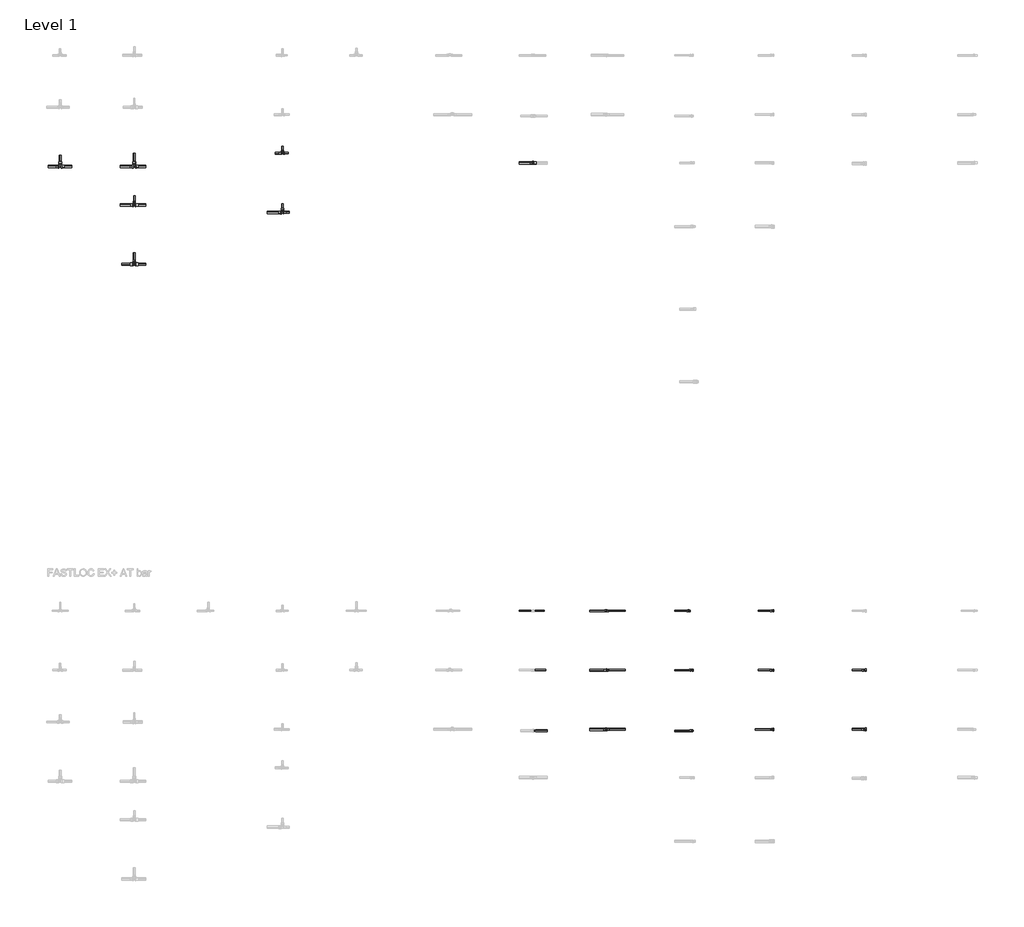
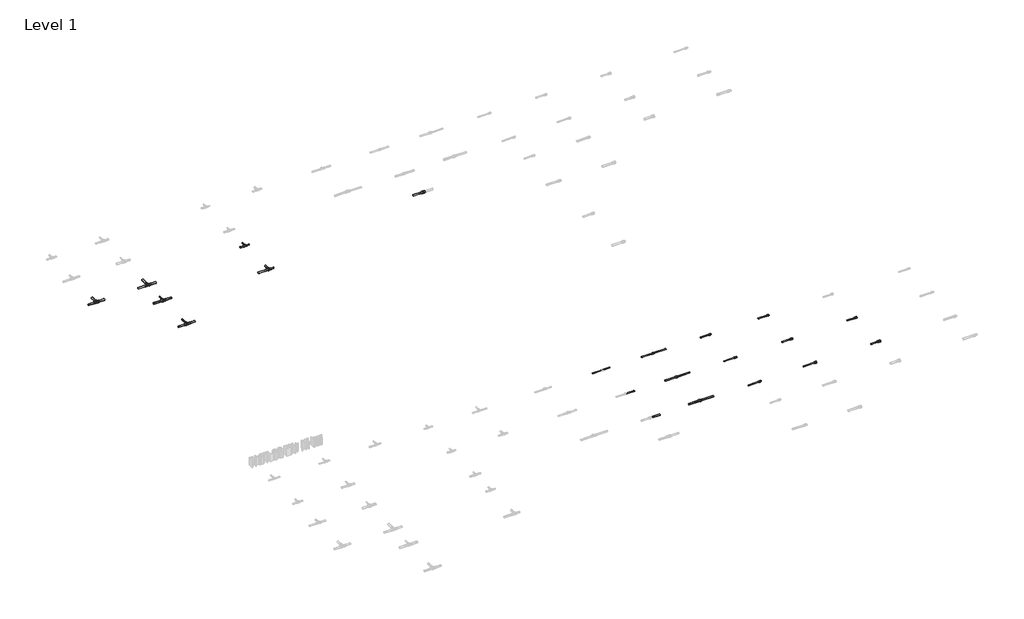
# One storey, part 3 of 16: 37 pipe segments, 18 pipe fittings.
"""IFC4 building model written with IfcOpenShell, lengths in millimetres."""

from ifc_helpers import new_model, si_unit, point, frame, frame_2d, origin, place, context, project, spatial, circle_curve, trimmed, segment, composite_curve, outline, extrude, transform, mapped, element, save
from components import pipe_fitting_1a227808, pipe_fitting_29307240, pipe_fitting_3f045704, pipe_fitting_bc9683d6, pipe_fitting_048a34f4, pipe_fitting_29655fe2, pipe_fitting_d5e3d02e, pipe_fitting_bff7a8e0, pipe_fitting_db3e6b17, pipe_fitting_a2d92617, pipe_fitting_b445dcfe, pipe_fitting_d2a23061, pipe_fitting_8464d15c, pipe_fitting_9284d0bf, pipe_fitting_5ce0ec79, pipe_fitting_622d26cc, pipe_fitting_bacc4522

model = new_model("IFC4")

# Units and contexts
model_context = context("Model", 3, world=origin())
ifc_project = project(units=[si_unit("LENGTHUNIT", "METRE", prefix="MILLI")], contexts=[model_context])

# Site, building, storey
site = spatial("IfcSite", under=ifc_project)
building = spatial("IfcBuilding", under=site)
storey = spatial("IfcBuildingStorey", under=building, Name="Level 1", Elevation=0.0)

# Pipe fittings
placement = place(None, origin())
pipe_fitting_shape = pipe_fitting_1a227808(model_context)
element("IfcPipeFitting", 1, ObjectType="FASTLOC_Coupling reduced EX+ : FSL C EX+ AT", at=placement, inside=storey, context=model_context, shape_type="MappedRepresentation", body=[
    mapped(pipe_fitting_shape, transform((8942.2258143, -7887.6479967, 0.0), x_axis=(1.0, 0.0, 0.0), y_axis=(0.0, 1.0, 0.0), z_axis=(0.0, 0.0, 1.0))),
])
pipe_fitting_2_shape = pipe_fitting_29307240(model_context)
element("IfcPipeFitting", 2, ObjectType="FASTLOC_Adapter_EX+, with internal thread : FSL A internal AT", at=placement, inside=storey, context=model_context, shape_type="MappedRepresentation", body=[
    mapped(pipe_fitting_2_shape, transform((11179.5143796, -6287.6479967, 0.0), x_axis=(1.0, 0.0, 0.0), y_axis=(0.0, 1.0, 0.0), z_axis=(0.0, 0.0, 1.0))),
])
pipe_fitting_3_shape = pipe_fitting_3f045704(model_context)
element("IfcPipeFitting", 3, ObjectType="FASTLOC_Adapter_RX+, with external thread : FSL A C external EX+ AT", at=placement, inside=storey, context=model_context, shape_type="MappedRepresentation", body=[
    mapped(pipe_fitting_3_shape, transform((10045.0524741, -6287.6479967, 0.0), x_axis=(1.0, 0.0, 0.0), y_axis=(0.0, 1.0, 0.0), z_axis=(0.0, 0.0, 1.0))),
])
pipe_fitting_4_shape = pipe_fitting_bc9683d6(model_context)
element("IfcPipeFitting", 4, ObjectType="FASTLOC_T-piece_EX+ : FSL T-Piece EX+ DE", at=placement, inside=storey, context=model_context, shape_type="MappedRepresentation", body=[
    mapped(pipe_fitting_4_shape, transform((1562.9146925, -287.6479967, 0.0), x_axis=(1.0, 0.0, 0.0), y_axis=(0.0, 1.0, 0.0), z_axis=(0.0, 0.0, 1.0))),
])
element("IfcPipeFitting", 5, ObjectType="FASTLOC_T-piece_EX+ : FSL T-Piece EX+ DE", at=placement, inside=storey, context=model_context, shape_type="MappedRepresentation", body=[
    mapped(pipe_fitting_4_shape, transform((2562.9146925, -287.6479967, 0.0), x_axis=(1.0, 0.0, 0.0), y_axis=(0.0, 1.0, 0.0), z_axis=(0.0, 0.0, 1.0))),
])
pipe_fitting_5_shape = pipe_fitting_048a34f4(model_context)
element("IfcPipeFitting", 6, ObjectType="FASTLOC_T-piece_EX+ : FSL T-Piece EX+ DE", at=placement, inside=storey, context=model_context, shape_type="MappedRepresentation", body=[
    mapped(pipe_fitting_5_shape, transform((2562.9146925, -807.6479967, 0.0), x_axis=(1.0, 0.0, 0.0), y_axis=(0.0, 1.0, 0.0), z_axis=(0.0, 0.0, 1.0))),
])
pipe_fitting_6_shape = pipe_fitting_29655fe2(model_context)
element("IfcPipeFitting", 7, ObjectType="FASTLOC_T-piece_EX+ : FSL T-Piece EX+ DE", at=placement, inside=storey, context=model_context, shape_type="MappedRepresentation", body=[
    mapped(pipe_fitting_6_shape, transform((2562.9146925, -1607.6479967, 0.0), x_axis=(1.0, 0.0, 0.0), y_axis=(0.0, 1.0, 0.0), z_axis=(0.0, 0.0, 1.0))),
])
pipe_fitting_7_shape = pipe_fitting_d5e3d02e(model_context)
element("IfcPipeFitting", 8, ObjectType="FASTLOC_T-piece_EX+ : FSL T-Piece EX+ DE", at=placement, inside=storey, context=model_context, shape_type="MappedRepresentation", body=[
    mapped(pipe_fitting_7_shape, transform((4562.9146925, -907.6479967, 0.0), x_axis=(1.0, 0.0, 0.0), y_axis=(0.0, 1.0, 0.0), z_axis=(0.0, 0.0, 1.0))),
])
pipe_fitting_8_shape = pipe_fitting_bff7a8e0(model_context)
element("IfcPipeFitting", 9, ObjectType="FASTLOC_T-piece_EX+ : FSL T-Piece EX+ DE", at=placement, inside=storey, context=model_context, shape_type="MappedRepresentation", body=[
    mapped(pipe_fitting_8_shape, transform((4562.9146925, -107.6479967, 0.0), x_axis=(1.0, 0.0, 0.0), y_axis=(0.0, 1.0, 0.0), z_axis=(0.0, 0.0, 1.0))),
])
pipe_fitting_9_shape = pipe_fitting_db3e6b17(model_context)
element("IfcPipeFitting", 10, ObjectType="FASTLOC_Adapter_EX+, with internal thread : FSL A internal AT", at=placement, inside=storey, context=model_context, shape_type="MappedRepresentation", body=[
    mapped(pipe_fitting_9_shape, transform((11179.5143796, -7087.6479967, 0.0), x_axis=(1.0, 0.0, 0.0), y_axis=(0.0, 1.0, 0.0), z_axis=(0.0, 0.0, 1.0))),
])
pipe_fitting_10_shape = pipe_fitting_a2d92617(model_context)
element("IfcPipeFitting", 11, ObjectType="FASTLOC_Adapter_EX+, with internal thread : FSL A internal AT", at=placement, inside=storey, context=model_context, shape_type="MappedRepresentation", body=[
    mapped(pipe_fitting_10_shape, transform((11179.5143796, -7887.6479967, 0.0), x_axis=(1.0, 0.0, 0.0), y_axis=(0.0, 1.0, 0.0), z_axis=(0.0, 0.0, 1.0))),
])
pipe_fitting_11_shape = pipe_fitting_b445dcfe(model_context)
element("IfcPipeFitting", 12, ObjectType="FASTLOC_Coupling reduced EX+ : FSL C EX+ AT", at=placement, inside=storey, context=model_context, shape_type="MappedRepresentation", body=[
    mapped(pipe_fitting_11_shape, transform((8942.2258143, -6287.6479967, 0.0), x_axis=(1.0, 0.0, 0.0), y_axis=(0.0, 1.0, 0.0), z_axis=(0.0, 0.0, 1.0))),
])
pipe_fitting_12_shape = pipe_fitting_d2a23061(model_context)
element("IfcPipeFitting", 13, ObjectType="FASTLOC_Coupling reduced EX+ : FSL C EX+ AT", at=placement, inside=storey, context=model_context, shape_type="MappedRepresentation", body=[
    mapped(pipe_fitting_12_shape, transform((8942.2258143, -7087.6479967, 0.0), x_axis=(1.0, 0.0, 0.0), y_axis=(0.0, 1.0, 0.0), z_axis=(0.0, 0.0, 1.0))),
])
pipe_fitting_13_shape = pipe_fitting_8464d15c(model_context)
element("IfcPipeFitting", 14, ObjectType="FASTLOC_Coupling equal EX+ : FSL C EX DE", at=placement, inside=storey, context=model_context, shape_type="MappedRepresentation", body=[
    mapped(pipe_fitting_13_shape, transform((7947.6401575, -239.0537829, 0.0), x_axis=(1.0, 0.0, 0.0), y_axis=(0.0, 1.0, 0.0), z_axis=(0.0, 0.0, 1.0))),
])
pipe_fitting_14_shape = pipe_fitting_9284d0bf(model_context)
element("IfcPipeFitting", 15, ObjectType="FASTLOC_Adapter_RX+, with external thread : FSL A C external EX+ AT", at=placement, inside=storey, context=model_context, shape_type="MappedRepresentation", body=[
    mapped(pipe_fitting_14_shape, transform((10080.5062975, -7087.6479967, 0.0), x_axis=(1.0, 0.0, 0.0), y_axis=(0.0, 1.0, 0.0), z_axis=(0.0, 0.0, 1.0))),
])
pipe_fitting_15_shape = pipe_fitting_5ce0ec79(model_context)
element("IfcPipeFitting", 16, ObjectType="FASTLOC_Adapter_RX+, with external thread : FSL A C external EX+ AT", at=placement, inside=storey, context=model_context, shape_type="MappedRepresentation", body=[
    mapped(pipe_fitting_15_shape, transform((10090.6359613, -7906.354246, 0.0), x_axis=(1.0, 0.0, 0.0), y_axis=(0.0, 1.0, 0.0), z_axis=(0.0, 0.0, 1.0))),
])
pipe_fitting_16_shape = pipe_fitting_622d26cc(model_context)
element("IfcPipeFitting", 17, ObjectType="FASTLOC_Adapter with union nut EX+ : FSL A union nut EX+ AT", at=placement, inside=storey, context=model_context, shape_type="MappedRepresentation", body=[
    mapped(pipe_fitting_16_shape, transform((12418.3503777, -7087.6479967, 0.0), x_axis=(1.0, 0.0, 0.0), y_axis=(0.0, 1.0, 0.0), z_axis=(0.0, 0.0, 1.0))),
])
pipe_fitting_17_shape = pipe_fitting_bacc4522(model_context)
element("IfcPipeFitting", 18, ObjectType="FASTLOC_Adapter with union nut EX+ : FSL A union nut EX+ AT", at=placement, inside=storey, context=model_context, shape_type="MappedRepresentation", body=[
    mapped(pipe_fitting_17_shape, transform((12418.3503777, -7887.6479967, 0.0), x_axis=(1.0, 0.0, 0.0), y_axis=(0.0, 1.0, 0.0), z_axis=(0.0, 0.0, 1.0))),
])

# Pipe segments
element("IfcPipeSegment", 19, ObjectType="FASTLOC EX+ ML DE bar", at=placement, inside=storey, context=model_context, shape_type="SweptSolid", body=[
    extrude(outline(composite_curve([segment(trimmed(circle_curve(frame_2d((-239.0537829, 0.0)), 16.0), [point((-223.0537829, 0.0))], [point((-239.0537829, -16.0))], False, "CARTESIAN"), True, "CONTINUOUS"), segment(trimmed(circle_curve(frame_2d((-239.0537829, 0.0)), 16.0), [point((-239.0537829, -16.0))], [point((-255.0537829, 0.0))], False, "CARTESIAN"), True, "CONTINUOUS"), segment(trimmed(circle_curve(frame_2d((-239.0537829, 0.0)), 16.0), [point((-255.0537829, 0.0))], [point((-239.0537829, 16.0))], False, "CARTESIAN"), True, "CONTINUOUS"), segment(trimmed(circle_curve(frame_2d((-239.0537829, 0.0)), 16.0), [point((-239.0537829, 16.0))], [point((-223.0537829, 0.0))], False, "CARTESIAN"), True, "CONTINUOUS")], self_intersect=False)), frame((7757.6401575, 0.0, 0.0), z_axis=(1.0, 0.0, 0.0), x_axis=(0.0, 1.0, 0.0)), (0.0, 0.0, 1.0), 180.0),
])
element("IfcPipeSegment", 20, ObjectType="FASTLOC EX+ ML DE bar", at=placement, inside=storey, context=model_context, shape_type="SweptSolid", body=[
    extrude(outline(composite_curve([segment(trimmed(circle_curve(frame_2d((-107.6479967, 0.0)), 10.0), [point((-117.6479967, 0.0))], [point((-107.6479967, 10.0))], False, "CARTESIAN"), True, "CONTINUOUS"), segment(trimmed(circle_curve(frame_2d((-107.6479967, 0.0)), 10.0), [point((-107.6479967, 10.0))], [point((-97.6479967, 0.0))], False, "CARTESIAN"), True, "CONTINUOUS"), segment(trimmed(circle_curve(frame_2d((-107.6479967, 0.0)), 10.0), [point((-97.6479967, 0.0))], [point((-107.6479967, -10.0))], False, "CARTESIAN"), True, "CONTINUOUS"), segment(trimmed(circle_curve(frame_2d((-107.6479967, 0.0)), 10.0), [point((-107.6479967, -10.0))], [point((-117.6479967, 0.0))], False, "CARTESIAN"), True, "CONTINUOUS")], self_intersect=False)), frame((4580.3146925, 0.0, 0.0), z_axis=(1.0, 0.0, 0.0), x_axis=(0.0, 1.0, 0.0)), (0.0, 0.0, 1.0), 60.0),
])
element("IfcPipeSegment", 21, ObjectType="FASTLOC EX+ ML DE bar", at=placement, inside=storey, context=model_context, shape_type="SweptSolid", body=[
    extrude(outline(composite_curve([segment(trimmed(circle_curve(frame_2d((0.0, 4562.9146925)), 10.0), [point((0.0, 4572.9146925))], [point((10.0, 4562.9146925))], False, "CARTESIAN"), True, "CONTINUOUS"), segment(trimmed(circle_curve(frame_2d((0.0, 4562.9146925)), 10.0), [point((10.0, 4562.9146925))], [point((0.0, 4552.9146925))], False, "CARTESIAN"), True, "CONTINUOUS"), segment(trimmed(circle_curve(frame_2d((0.0, 4562.9146925)), 10.0), [point((0.0, 4552.9146925))], [point((-10.0, 4562.9146925))], False, "CARTESIAN"), True, "CONTINUOUS"), segment(trimmed(circle_curve(frame_2d((0.0, 4562.9146925)), 10.0), [point((-10.0, 4562.9146925))], [point((0.0, 4572.9146925))], False, "CARTESIAN"), True, "CONTINUOUS")], self_intersect=False)), frame((0.0, -78.4479967, 0.0), z_axis=(0.0, 1.0, 0.0), x_axis=(0.0, 0.0, 1.0)), (0.0, 0.0, 1.0), 65.0),
])
element("IfcPipeSegment", 22, ObjectType="FASTLOC EX+ ML DE bar", at=placement, inside=storey, context=model_context, shape_type="SweptSolid", body=[
    extrude(outline(composite_curve([segment(trimmed(circle_curve(frame_2d((-107.6479967, 0.0)), 12.5), [point((-95.1479967, 0.0))], [point((-107.6479967, -12.5))], False, "CARTESIAN"), True, "CONTINUOUS"), segment(trimmed(circle_curve(frame_2d((-107.6479967, 0.0)), 12.5), [point((-107.6479967, -12.5))], [point((-120.1479967, 0.0))], False, "CARTESIAN"), True, "CONTINUOUS"), segment(trimmed(circle_curve(frame_2d((-107.6479967, 0.0)), 12.5), [point((-120.1479967, 0.0))], [point((-107.6479967, 12.5))], False, "CARTESIAN"), True, "CONTINUOUS"), segment(trimmed(circle_curve(frame_2d((-107.6479967, 0.0)), 12.5), [point((-107.6479967, 12.5))], [point((-95.1479967, 0.0))], False, "CARTESIAN"), True, "CONTINUOUS")], self_intersect=False)), frame((4464.6146925, 0.0, 0.0), z_axis=(1.0, 0.0, 0.0), x_axis=(0.0, 1.0, 0.0)), (0.0, 0.0, 1.0), 80.0),
])
element("IfcPipeSegment", 23, ObjectType="FASTLOC EX+ ML DE bar", at=placement, inside=storey, context=model_context, shape_type="SweptSolid", body=[
    extrude(outline(composite_curve([segment(trimmed(circle_curve(frame_2d((-907.6479967, 0.0)), 12.5), [point((-920.1479967, 0.0))], [point((-907.6479967, 12.5))], False, "CARTESIAN"), True, "CONTINUOUS"), segment(trimmed(circle_curve(frame_2d((-907.6479967, 0.0)), 12.5), [point((-907.6479967, 12.5))], [point((-895.1479967, 0.0))], False, "CARTESIAN"), True, "CONTINUOUS"), segment(trimmed(circle_curve(frame_2d((-907.6479967, 0.0)), 12.5), [point((-895.1479967, 0.0))], [point((-907.6479967, -12.5))], False, "CARTESIAN"), True, "CONTINUOUS"), segment(trimmed(circle_curve(frame_2d((-907.6479967, 0.0)), 12.5), [point((-907.6479967, -12.5))], [point((-920.1479967, 0.0))], False, "CARTESIAN"), True, "CONTINUOUS")], self_intersect=False)), frame((4583.0146925, 0.0, 0.0), z_axis=(1.0, 0.0, 0.0), x_axis=(0.0, 1.0, 0.0)), (0.0, 0.0, 1.0), 70.4),
])
element("IfcPipeSegment", 24, ObjectType="FASTLOC EX+ ML DE bar", at=placement, inside=storey, context=model_context, shape_type="SweptSolid", body=[
    extrude(outline(composite_curve([segment(trimmed(circle_curve(frame_2d((0.0, 4562.9146925)), 12.5), [point((0.0, 4575.4146925))], [point((12.5, 4562.9146925))], False, "CARTESIAN"), True, "CONTINUOUS"), segment(trimmed(circle_curve(frame_2d((0.0, 4562.9146925)), 12.5), [point((12.5, 4562.9146925))], [point((0.0, 4550.4146925))], False, "CARTESIAN"), True, "CONTINUOUS"), segment(trimmed(circle_curve(frame_2d((0.0, 4562.9146925)), 12.5), [point((0.0, 4550.4146925))], [point((-12.5, 4562.9146925))], False, "CARTESIAN"), True, "CONTINUOUS"), segment(trimmed(circle_curve(frame_2d((0.0, 4562.9146925)), 12.5), [point((-12.5, 4562.9146925))], [point((0.0, 4575.4146925))], False, "CARTESIAN"), True, "CONTINUOUS")], self_intersect=False)), frame((0.0, -873.2479967, 0.0), z_axis=(0.0, 1.0, 0.0), x_axis=(0.0, 0.0, 1.0)), (0.0, 0.0, 1.0), 85.0),
])
element("IfcPipeSegment", 25, ObjectType="FASTLOC EX+ ML DE bar", at=placement, inside=storey, context=model_context, shape_type="SweptSolid", body=[
    extrude(outline(composite_curve([segment(trimmed(circle_curve(frame_2d((-907.6479967, 0.0)), 16.0), [point((-891.6479967, 0.0))], [point((-907.6479967, -16.0))], False, "CARTESIAN"), True, "CONTINUOUS"), segment(trimmed(circle_curve(frame_2d((-907.6479967, 0.0)), 16.0), [point((-907.6479967, -16.0))], [point((-923.6479967, 0.0))], False, "CARTESIAN"), True, "CONTINUOUS"), segment(trimmed(circle_curve(frame_2d((-907.6479967, 0.0)), 16.0), [point((-923.6479967, 0.0))], [point((-907.6479967, 16.0))], False, "CARTESIAN"), True, "CONTINUOUS"), segment(trimmed(circle_curve(frame_2d((-907.6479967, 0.0)), 16.0), [point((-907.6479967, 16.0))], [point((-891.6479967, 0.0))], False, "CARTESIAN"), True, "CONTINUOUS")], self_intersect=False)), frame((4355.8146925, 0.0, 0.0), z_axis=(1.0, 0.0, 0.0), x_axis=(0.0, 1.0, 0.0)), (0.0, 0.0, 1.0), 185.0),
])
element("IfcPipeSegment", 26, ObjectType="FASTLOC EX+ ML DE bar", at=placement, inside=storey, context=model_context, shape_type="SweptSolid", body=[
    extrude(outline(composite_curve([segment(trimmed(circle_curve(frame_2d((-287.6479967, 0.0)), 16.0), [point((-303.6479967, 0.0))], [point((-287.6479967, 16.0))], False, "CARTESIAN"), True, "CONTINUOUS"), segment(trimmed(circle_curve(frame_2d((-287.6479967, 0.0)), 16.0), [point((-287.6479967, 16.0))], [point((-271.6479967, 0.0))], False, "CARTESIAN"), True, "CONTINUOUS"), segment(trimmed(circle_curve(frame_2d((-287.6479967, 0.0)), 16.0), [point((-271.6479967, 0.0))], [point((-287.6479967, -16.0))], False, "CARTESIAN"), True, "CONTINUOUS"), segment(trimmed(circle_curve(frame_2d((-287.6479967, 0.0)), 16.0), [point((-287.6479967, -16.0))], [point((-303.6479967, 0.0))], False, "CARTESIAN"), True, "CONTINUOUS")], self_intersect=False)), frame((2587.7146925, 0.0, 0.0), z_axis=(1.0, 0.0, 0.0), x_axis=(0.0, 1.0, 0.0)), (0.0, 0.0, 1.0), 130.0),
])
element("IfcPipeSegment", 27, ObjectType="FASTLOC EX+ ML DE bar", at=placement, inside=storey, context=model_context, shape_type="SweptSolid", body=[
    extrude(outline(composite_curve([segment(trimmed(circle_curve(frame_2d((0.0, 2562.9146925)), 16.0), [point((0.0, 2578.9146925))], [point((16.0, 2562.9146925))], False, "CARTESIAN"), True, "CONTINUOUS"), segment(trimmed(circle_curve(frame_2d((0.0, 2562.9146925)), 16.0), [point((16.0, 2562.9146925))], [point((0.0, 2546.9146925))], False, "CARTESIAN"), True, "CONTINUOUS"), segment(trimmed(circle_curve(frame_2d((0.0, 2562.9146925)), 16.0), [point((0.0, 2546.9146925))], [point((-16.0, 2562.9146925))], False, "CARTESIAN"), True, "CONTINUOUS"), segment(trimmed(circle_curve(frame_2d((0.0, 2562.9146925)), 16.0), [point((-16.0, 2562.9146925))], [point((0.0, 2578.9146925))], False, "CARTESIAN"), True, "CONTINUOUS")], self_intersect=False)), frame((0.0, -251.5479967, 0.0), z_axis=(0.0, 1.0, 0.0), x_axis=(0.0, 0.0, 1.0)), (0.0, 0.0, 1.0), 145.0),
])
element("IfcPipeSegment", 28, ObjectType="FASTLOC EX+ ML DE bar", at=placement, inside=storey, context=model_context, shape_type="SweptSolid", body=[
    extrude(outline(composite_curve([segment(trimmed(circle_curve(frame_2d((-287.6479967, 0.0)), 16.0), [point((-271.6479967, 0.0))], [point((-287.6479967, -16.0))], False, "CARTESIAN"), True, "CONTINUOUS"), segment(trimmed(circle_curve(frame_2d((-287.6479967, 0.0)), 16.0), [point((-287.6479967, -16.0))], [point((-303.6479967, 0.0))], False, "CARTESIAN"), True, "CONTINUOUS"), segment(trimmed(circle_curve(frame_2d((-287.6479967, 0.0)), 16.0), [point((-303.6479967, 0.0))], [point((-287.6479967, 16.0))], False, "CARTESIAN"), True, "CONTINUOUS"), segment(trimmed(circle_curve(frame_2d((-287.6479967, 0.0)), 16.0), [point((-287.6479967, 16.0))], [point((-271.6479967, 0.0))], False, "CARTESIAN"), True, "CONTINUOUS")], self_intersect=False)), frame((2373.1146925, 0.0, 0.0), z_axis=(1.0, 0.0, 0.0), x_axis=(0.0, 1.0, 0.0)), (0.0, 0.0, 1.0), 165.0),
])
element("IfcPipeSegment", 29, ObjectType="FASTLOC EX+ ML DE bar", at=placement, inside=storey, context=model_context, shape_type="SweptSolid", body=[
    extrude(outline(composite_curve([segment(trimmed(circle_curve(frame_2d((-807.6479967, 0.0)), 16.0), [point((-823.6479967, 0.0))], [point((-807.6479967, 16.0))], False, "CARTESIAN"), True, "CONTINUOUS"), segment(trimmed(circle_curve(frame_2d((-807.6479967, 0.0)), 16.0), [point((-807.6479967, 16.0))], [point((-791.6479967, 0.0))], False, "CARTESIAN"), True, "CONTINUOUS"), segment(trimmed(circle_curve(frame_2d((-807.6479967, 0.0)), 16.0), [point((-791.6479967, 0.0))], [point((-807.6479967, -16.0))], False, "CARTESIAN"), True, "CONTINUOUS"), segment(trimmed(circle_curve(frame_2d((-807.6479967, 0.0)), 16.0), [point((-807.6479967, -16.0))], [point((-823.6479967, 0.0))], False, "CARTESIAN"), True, "CONTINUOUS")], self_intersect=False)), frame((2583.1146925, 0.0, 0.0), z_axis=(1.0, 0.0, 0.0), x_axis=(0.0, 1.0, 0.0)), (0.0, 0.0, 1.0), 134.6),
])
element("IfcPipeSegment", 30, ObjectType="FASTLOC EX+ ML DE bar", at=placement, inside=storey, context=model_context, shape_type="SweptSolid", body=[
    extrude(outline(composite_curve([segment(trimmed(circle_curve(frame_2d((-807.6479967, 0.0)), 16.0), [point((-791.6479967, 0.0))], [point((-807.6479967, -16.0))], False, "CARTESIAN"), True, "CONTINUOUS"), segment(trimmed(circle_curve(frame_2d((-807.6479967, 0.0)), 16.0), [point((-807.6479967, -16.0))], [point((-823.6479967, 0.0))], False, "CARTESIAN"), True, "CONTINUOUS"), segment(trimmed(circle_curve(frame_2d((-807.6479967, 0.0)), 16.0), [point((-823.6479967, 0.0))], [point((-807.6479967, 16.0))], False, "CARTESIAN"), True, "CONTINUOUS"), segment(trimmed(circle_curve(frame_2d((-807.6479967, 0.0)), 16.0), [point((-807.6479967, 16.0))], [point((-791.6479967, 0.0))], False, "CARTESIAN"), True, "CONTINUOUS")], self_intersect=False)), frame((2373.1146925, 0.0, 0.0), z_axis=(1.0, 0.0, 0.0), x_axis=(0.0, 1.0, 0.0)), (0.0, 0.0, 1.0), 169.6),
])
element("IfcPipeSegment", 31, ObjectType="FASTLOC EX+ ML DE bar", at=placement, inside=storey, context=model_context, shape_type="SweptSolid", body=[
    extrude(outline(composite_curve([segment(trimmed(circle_curve(frame_2d((0.0, 2562.9146925)), 10.0), [point((0.0, 2572.9146925))], [point((10.0, 2562.9146925))], False, "CARTESIAN"), True, "CONTINUOUS"), segment(trimmed(circle_curve(frame_2d((0.0, 2562.9146925)), 10.0), [point((10.0, 2562.9146925))], [point((0.0, 2552.9146925))], False, "CARTESIAN"), True, "CONTINUOUS"), segment(trimmed(circle_curve(frame_2d((0.0, 2562.9146925)), 10.0), [point((0.0, 2552.9146925))], [point((-10.0, 2562.9146925))], False, "CARTESIAN"), True, "CONTINUOUS"), segment(trimmed(circle_curve(frame_2d((0.0, 2562.9146925)), 10.0), [point((-10.0, 2562.9146925))], [point((0.0, 2572.9146925))], False, "CARTESIAN"), True, "CONTINUOUS")], self_intersect=False)), frame((0.0, -773.6479967, 0.0), z_axis=(0.0, 1.0, 0.0), x_axis=(0.0, 0.0, 1.0)), (0.0, 0.0, 1.0), 90.0),
])
element("IfcPipeSegment", 32, ObjectType="FASTLOC EX+ ML DE bar", at=placement, inside=storey, context=model_context, shape_type="SweptSolid", body=[
    extrude(outline(composite_curve([segment(trimmed(circle_curve(frame_2d((-1607.6479967, 0.0)), 16.0), [point((-1623.6479967, 0.0))], [point((-1607.6479967, 16.0))], False, "CARTESIAN"), True, "CONTINUOUS"), segment(trimmed(circle_curve(frame_2d((-1607.6479967, 0.0)), 16.0), [point((-1607.6479967, 16.0))], [point((-1591.6479967, 0.0))], False, "CARTESIAN"), True, "CONTINUOUS"), segment(trimmed(circle_curve(frame_2d((-1607.6479967, 0.0)), 16.0), [point((-1591.6479967, 0.0))], [point((-1607.6479967, -16.0))], False, "CARTESIAN"), True, "CONTINUOUS"), segment(trimmed(circle_curve(frame_2d((-1607.6479967, 0.0)), 16.0), [point((-1607.6479967, -16.0))], [point((-1623.6479967, 0.0))], False, "CARTESIAN"), True, "CONTINUOUS")], self_intersect=False)), frame((2584.9146925, 0.0, 0.0), z_axis=(1.0, 0.0, 0.0), x_axis=(0.0, 1.0, 0.0)), (0.0, 0.0, 1.0), 132.8),
])
element("IfcPipeSegment", 33, ObjectType="FASTLOC EX+ ML DE bar", at=placement, inside=storey, context=model_context, shape_type="SweptSolid", body=[
    extrude(outline(composite_curve([segment(trimmed(circle_curve(frame_2d((-1607.6479967, 0.0)), 16.0), [point((-1591.6479967, 0.0))], [point((-1607.6479967, -16.0))], False, "CARTESIAN"), True, "CONTINUOUS"), segment(trimmed(circle_curve(frame_2d((-1607.6479967, 0.0)), 16.0), [point((-1607.6479967, -16.0))], [point((-1623.6479967, 0.0))], False, "CARTESIAN"), True, "CONTINUOUS"), segment(trimmed(circle_curve(frame_2d((-1607.6479967, 0.0)), 16.0), [point((-1623.6479967, 0.0))], [point((-1607.6479967, 16.0))], False, "CARTESIAN"), True, "CONTINUOUS"), segment(trimmed(circle_curve(frame_2d((-1607.6479967, 0.0)), 16.0), [point((-1607.6479967, 16.0))], [point((-1591.6479967, 0.0))], False, "CARTESIAN"), True, "CONTINUOUS")], self_intersect=False)), frame((2395.9146925, 0.0, 0.0), z_axis=(1.0, 0.0, 0.0), x_axis=(0.0, 1.0, 0.0)), (0.0, 0.0, 1.0), 145.0),
])
element("IfcPipeSegment", 34, ObjectType="FASTLOC EX+ ML DE bar", at=placement, inside=storey, context=model_context, shape_type="SweptSolid", body=[
    extrude(outline(composite_curve([segment(trimmed(circle_curve(frame_2d((0.0, 2562.9146925)), 12.5), [point((0.0, 2575.4146925))], [point((12.5, 2562.9146925))], False, "CARTESIAN"), True, "CONTINUOUS"), segment(trimmed(circle_curve(frame_2d((0.0, 2562.9146925)), 12.5), [point((12.5, 2562.9146925))], [point((0.0, 2550.4146925))], False, "CARTESIAN"), True, "CONTINUOUS"), segment(trimmed(circle_curve(frame_2d((0.0, 2562.9146925)), 12.5), [point((0.0, 2550.4146925))], [point((-12.5, 2562.9146925))], False, "CARTESIAN"), True, "CONTINUOUS"), segment(trimmed(circle_curve(frame_2d((0.0, 2562.9146925)), 12.5), [point((-12.5, 2562.9146925))], [point((0.0, 2575.4146925))], False, "CARTESIAN"), True, "CONTINUOUS")], self_intersect=False)), frame((0.0, -1573.2479967, 0.0), z_axis=(0.0, 1.0, 0.0), x_axis=(0.0, 0.0, 1.0)), (0.0, 0.0, 1.0), 120.0),
])
element("IfcPipeSegment", 35, ObjectType="FASTLOC EX+ ML DE bar", at=placement, inside=storey, context=model_context, shape_type="SweptSolid", body=[
    extrude(outline(composite_curve([segment(trimmed(circle_curve(frame_2d((-287.6479967, 0.0)), 16.0), [point((-303.6479967, 0.0))], [point((-287.6479967, 16.0))], False, "CARTESIAN"), True, "CONTINUOUS"), segment(trimmed(circle_curve(frame_2d((-287.6479967, 0.0)), 16.0), [point((-287.6479967, 16.0))], [point((-271.6479967, 0.0))], False, "CARTESIAN"), True, "CONTINUOUS"), segment(trimmed(circle_curve(frame_2d((-287.6479967, 0.0)), 16.0), [point((-271.6479967, 0.0))], [point((-287.6479967, -16.0))], False, "CARTESIAN"), True, "CONTINUOUS"), segment(trimmed(circle_curve(frame_2d((-287.6479967, 0.0)), 16.0), [point((-287.6479967, -16.0))], [point((-303.6479967, 0.0))], False, "CARTESIAN"), True, "CONTINUOUS")], self_intersect=False)), frame((1587.7146925, 0.0, 0.0), z_axis=(1.0, 0.0, 0.0), x_axis=(0.0, 1.0, 0.0)), (0.0, 0.0, 1.0), 130.0),
])
element("IfcPipeSegment", 36, ObjectType="FASTLOC EX+ ML DE bar", at=placement, inside=storey, context=model_context, shape_type="SweptSolid", body=[
    extrude(outline(composite_curve([segment(trimmed(circle_curve(frame_2d((-287.6479967, 0.0)), 16.0), [point((-271.6479967, 0.0))], [point((-287.6479967, -16.0))], False, "CARTESIAN"), True, "CONTINUOUS"), segment(trimmed(circle_curve(frame_2d((-287.6479967, 0.0)), 16.0), [point((-287.6479967, -16.0))], [point((-303.6479967, 0.0))], False, "CARTESIAN"), True, "CONTINUOUS"), segment(trimmed(circle_curve(frame_2d((-287.6479967, 0.0)), 16.0), [point((-303.6479967, 0.0))], [point((-287.6479967, 16.0))], False, "CARTESIAN"), True, "CONTINUOUS"), segment(trimmed(circle_curve(frame_2d((-287.6479967, 0.0)), 16.0), [point((-287.6479967, 16.0))], [point((-271.6479967, 0.0))], False, "CARTESIAN"), True, "CONTINUOUS")], self_intersect=False)), frame((1403.1146925, 0.0, 0.0), z_axis=(1.0, 0.0, 0.0), x_axis=(0.0, 1.0, 0.0)), (0.0, 0.0, 1.0), 135.0),
])
element("IfcPipeSegment", 37, ObjectType="FASTLOC EX+ ML DE bar", at=placement, inside=storey, context=model_context, shape_type="SweptSolid", body=[
    extrude(outline(composite_curve([segment(trimmed(circle_curve(frame_2d((0.0, 1562.9146925)), 16.0), [point((0.0, 1578.9146925))], [point((16.0, 1562.9146925))], False, "CARTESIAN"), True, "CONTINUOUS"), segment(trimmed(circle_curve(frame_2d((0.0, 1562.9146925)), 16.0), [point((16.0, 1562.9146925))], [point((0.0, 1546.9146925))], False, "CARTESIAN"), True, "CONTINUOUS"), segment(trimmed(circle_curve(frame_2d((0.0, 1562.9146925)), 16.0), [point((0.0, 1546.9146925))], [point((-16.0, 1562.9146925))], False, "CARTESIAN"), True, "CONTINUOUS"), segment(trimmed(circle_curve(frame_2d((0.0, 1562.9146925)), 16.0), [point((-16.0, 1562.9146925))], [point((0.0, 1578.9146925))], False, "CARTESIAN"), True, "CONTINUOUS")], self_intersect=False)), frame((0.0, -251.5479967, 0.0), z_axis=(0.0, 1.0, 0.0), x_axis=(0.0, 0.0, 1.0)), (0.0, 0.0, 1.0), 115.0),
])
element("IfcPipeSegment", 38, ObjectType="FASTLOC EX+ ML AT bar", at=placement, inside=storey, context=model_context, shape_type="SweptSolid", body=[
    extrude(outline(composite_curve([segment(trimmed(circle_curve(frame_2d((-7087.6479967, 0.0)), 10.0), [point((-7077.6479967, 0.0))], [point((-7087.6479967, -10.0))], False, "CARTESIAN"), True, "CONTINUOUS"), segment(trimmed(circle_curve(frame_2d((-7087.6479967, 0.0)), 10.0), [point((-7087.6479967, -10.0))], [point((-7097.6479967, 0.0))], False, "CARTESIAN"), True, "CONTINUOUS"), segment(trimmed(circle_curve(frame_2d((-7087.6479967, 0.0)), 10.0), [point((-7097.6479967, 0.0))], [point((-7087.6479967, 10.0))], False, "CARTESIAN"), True, "CONTINUOUS"), segment(trimmed(circle_curve(frame_2d((-7087.6479967, 0.0)), 10.0), [point((-7087.6479967, 10.0))], [point((-7077.6479967, 0.0))], False, "CARTESIAN"), True, "CONTINUOUS")], self_intersect=False)), frame((12259.3503777, 0.0, 0.0), z_axis=(1.0, 0.0, 0.0), x_axis=(0.0, 1.0, 0.0)), (0.0, 0.0, 1.0), 150.0),
])
element("IfcPipeSegment", 39, ObjectType="FASTLOC EX+ ML AT bar", at=placement, inside=storey, context=model_context, shape_type="SweptSolid", body=[
    extrude(outline(composite_curve([segment(trimmed(circle_curve(frame_2d((-7887.6479967, 0.0)), 12.5), [point((-7875.1479967, 0.0))], [point((-7887.6479967, -12.5))], False, "CARTESIAN"), True, "CONTINUOUS"), segment(trimmed(circle_curve(frame_2d((-7887.6479967, 0.0)), 12.5), [point((-7887.6479967, -12.5))], [point((-7900.1479967, 0.0))], False, "CARTESIAN"), True, "CONTINUOUS"), segment(trimmed(circle_curve(frame_2d((-7887.6479967, 0.0)), 12.5), [point((-7900.1479967, 0.0))], [point((-7887.6479967, 12.5))], False, "CARTESIAN"), True, "CONTINUOUS"), segment(trimmed(circle_curve(frame_2d((-7887.6479967, 0.0)), 12.5), [point((-7887.6479967, 12.5))], [point((-7875.1479967, 0.0))], False, "CARTESIAN"), True, "CONTINUOUS")], self_intersect=False)), frame((12259.3503777, 0.0, 0.0), z_axis=(1.0, 0.0, 0.0), x_axis=(0.0, 1.0, 0.0)), (0.0, 0.0, 1.0), 148.7),
])
element("IfcPipeSegment", 40, ObjectType="FASTLOC EX+ ML AT bar", at=placement, inside=storey, context=model_context, shape_type="SweptSolid", body=[
    extrude(outline(composite_curve([segment(trimmed(circle_curve(frame_2d((-6287.6479967, 0.0)), 8.0), [point((-6279.6479967, 0.0))], [point((-6287.6479967, -8.0))], False, "CARTESIAN"), True, "CONTINUOUS"), segment(trimmed(circle_curve(frame_2d((-6287.6479967, 0.0)), 8.0), [point((-6287.6479967, -8.0))], [point((-6295.6479967, 0.0))], False, "CARTESIAN"), True, "CONTINUOUS"), segment(trimmed(circle_curve(frame_2d((-6287.6479967, 0.0)), 8.0), [point((-6295.6479967, 0.0))], [point((-6287.6479967, 8.0))], False, "CARTESIAN"), True, "CONTINUOUS"), segment(trimmed(circle_curve(frame_2d((-6287.6479967, 0.0)), 8.0), [point((-6287.6479967, 8.0))], [point((-6279.6479967, 0.0))], False, "CARTESIAN"), True, "CONTINUOUS")], self_intersect=False)), frame((10987.1143796, 0.0, 0.0), z_axis=(1.0, 0.0, 0.0), x_axis=(0.0, 1.0, 0.0)), (0.0, 0.0, 1.0), 180.0),
])
element("IfcPipeSegment", 41, ObjectType="FASTLOC EX+ ML AT bar", at=placement, inside=storey, context=model_context, shape_type="SweptSolid", body=[
    extrude(outline(composite_curve([segment(trimmed(circle_curve(frame_2d((-7087.6479967, 0.0)), 10.0), [point((-7077.6479967, 0.0))], [point((-7087.6479967, -10.0))], False, "CARTESIAN"), True, "CONTINUOUS"), segment(trimmed(circle_curve(frame_2d((-7087.6479967, 0.0)), 10.0), [point((-7087.6479967, -10.0))], [point((-7097.6479967, 0.0))], False, "CARTESIAN"), True, "CONTINUOUS"), segment(trimmed(circle_curve(frame_2d((-7087.6479967, 0.0)), 10.0), [point((-7097.6479967, 0.0))], [point((-7087.6479967, 10.0))], False, "CARTESIAN"), True, "CONTINUOUS"), segment(trimmed(circle_curve(frame_2d((-7087.6479967, 0.0)), 10.0), [point((-7087.6479967, 10.0))], [point((-7077.6479967, 0.0))], False, "CARTESIAN"), True, "CONTINUOUS")], self_intersect=False)), frame((10987.1143796, 0.0, 0.0), z_axis=(1.0, 0.0, 0.0), x_axis=(0.0, 1.0, 0.0)), (0.0, 0.0, 1.0), 180.7),
])
element("IfcPipeSegment", 42, ObjectType="FASTLOC EX+ ML AT bar", at=placement, inside=storey, context=model_context, shape_type="SweptSolid", body=[
    extrude(outline(composite_curve([segment(trimmed(circle_curve(frame_2d((-7887.6479967, 0.0)), 10.0), [point((-7877.6479967, 0.0))], [point((-7887.6479967, -10.0))], False, "CARTESIAN"), True, "CONTINUOUS"), segment(trimmed(circle_curve(frame_2d((-7887.6479967, 0.0)), 10.0), [point((-7887.6479967, -10.0))], [point((-7897.6479967, 0.0))], False, "CARTESIAN"), True, "CONTINUOUS"), segment(trimmed(circle_curve(frame_2d((-7887.6479967, 0.0)), 10.0), [point((-7897.6479967, 0.0))], [point((-7887.6479967, 10.0))], False, "CARTESIAN"), True, "CONTINUOUS"), segment(trimmed(circle_curve(frame_2d((-7887.6479967, 0.0)), 10.0), [point((-7887.6479967, 10.0))], [point((-7877.6479967, 0.0))], False, "CARTESIAN"), True, "CONTINUOUS")], self_intersect=False)), frame((10946.2143796, 0.0, 0.0), z_axis=(1.0, 0.0, 0.0), x_axis=(0.0, 1.0, 0.0)), (0.0, 0.0, 1.0), 220.0),
])
element("IfcPipeSegment", 43, ObjectType="FASTLOC EX+ ML AT bar", at=placement, inside=storey, context=model_context, shape_type="SweptSolid", body=[
    extrude(outline(composite_curve([segment(trimmed(circle_curve(frame_2d((-7906.354246, 0.0)), 10.0), [point((-7896.354246, 0.0))], [point((-7906.354246, -10.0))], False, "CARTESIAN"), True, "CONTINUOUS"), segment(trimmed(circle_curve(frame_2d((-7906.354246, 0.0)), 10.0), [point((-7906.354246, -10.0))], [point((-7916.354246, 0.0))], False, "CARTESIAN"), True, "CONTINUOUS"), segment(trimmed(circle_curve(frame_2d((-7906.354246, 0.0)), 10.0), [point((-7916.354246, 0.0))], [point((-7906.354246, 10.0))], False, "CARTESIAN"), True, "CONTINUOUS"), segment(trimmed(circle_curve(frame_2d((-7906.354246, 0.0)), 10.0), [point((-7906.354246, 10.0))], [point((-7896.354246, 0.0))], False, "CARTESIAN"), True, "CONTINUOUS")], self_intersect=False)), frame((9861.9359613, 0.0, 0.0), z_axis=(1.0, 0.0, 0.0), x_axis=(0.0, 1.0, 0.0)), (0.0, 0.0, 1.0), 220.0),
])
element("IfcPipeSegment", 44, ObjectType="FASTLOC EX+ ML AT bar", at=placement, inside=storey, context=model_context, shape_type="SweptSolid", body=[
    extrude(outline(composite_curve([segment(trimmed(circle_curve(frame_2d((-7087.6479967, 0.0)), 8.0), [point((-7079.6479967, 0.0))], [point((-7087.6479967, -8.0))], False, "CARTESIAN"), True, "CONTINUOUS"), segment(trimmed(circle_curve(frame_2d((-7087.6479967, 0.0)), 8.0), [point((-7087.6479967, -8.0))], [point((-7095.6479967, 0.0))], False, "CARTESIAN"), True, "CONTINUOUS"), segment(trimmed(circle_curve(frame_2d((-7087.6479967, 0.0)), 8.0), [point((-7095.6479967, 0.0))], [point((-7087.6479967, 8.0))], False, "CARTESIAN"), True, "CONTINUOUS"), segment(trimmed(circle_curve(frame_2d((-7087.6479967, 0.0)), 8.0), [point((-7087.6479967, 8.0))], [point((-7079.6479967, 0.0))], False, "CARTESIAN"), True, "CONTINUOUS")], self_intersect=False)), frame((9861.9359613, 0.0, 0.0), z_axis=(1.0, 0.0, 0.0), x_axis=(0.0, 1.0, 0.0)), (0.0, 0.0, 1.0), 209.6703362),
])
element("IfcPipeSegment", 45, ObjectType="FASTLOC EX+ ML AT bar", at=placement, inside=storey, context=model_context, shape_type="SweptSolid", body=[
    extrude(outline(composite_curve([segment(trimmed(circle_curve(frame_2d((-6287.6479967, 0.0)), 8.0), [point((-6279.6479967, 0.0))], [point((-6287.6479967, -8.0))], False, "CARTESIAN"), True, "CONTINUOUS"), segment(trimmed(circle_curve(frame_2d((-6287.6479967, 0.0)), 8.0), [point((-6287.6479967, -8.0))], [point((-6295.6479967, 0.0))], False, "CARTESIAN"), True, "CONTINUOUS"), segment(trimmed(circle_curve(frame_2d((-6287.6479967, 0.0)), 8.0), [point((-6295.6479967, 0.0))], [point((-6287.6479967, 8.0))], False, "CARTESIAN"), True, "CONTINUOUS"), segment(trimmed(circle_curve(frame_2d((-6287.6479967, 0.0)), 8.0), [point((-6287.6479967, 8.0))], [point((-6279.6479967, 0.0))], False, "CARTESIAN"), True, "CONTINUOUS")], self_intersect=False)), frame((9861.9359613, 0.0, 0.0), z_axis=(1.0, 0.0, 0.0), x_axis=(0.0, 1.0, 0.0)), (0.0, 0.0, 1.0), 174.2165128),
])
element("IfcPipeSegment", 46, ObjectType="FASTLOC EX+ ML AT bar", at=placement, inside=storey, context=model_context, shape_type="SweptSolid", body=[
    extrude(outline(composite_curve([segment(trimmed(circle_curve(frame_2d((-6287.6479967, 0.0)), 8.0), [point((-6295.6479967, 0.0))], [point((-6287.6479967, 8.0))], False, "CARTESIAN"), True, "CONTINUOUS"), segment(trimmed(circle_curve(frame_2d((-6287.6479967, 0.0)), 8.0), [point((-6287.6479967, 8.0))], [point((-6279.6479967, 0.0))], False, "CARTESIAN"), True, "CONTINUOUS"), segment(trimmed(circle_curve(frame_2d((-6287.6479967, 0.0)), 8.0), [point((-6279.6479967, 0.0))], [point((-6287.6479967, -8.0))], False, "CARTESIAN"), True, "CONTINUOUS"), segment(trimmed(circle_curve(frame_2d((-6287.6479967, 0.0)), 8.0), [point((-6287.6479967, -8.0))], [point((-6295.6479967, 0.0))], False, "CARTESIAN"), True, "CONTINUOUS")], self_intersect=False)), frame((7954.8401575, 0.0, 0.0), z_axis=(1.0, 0.0, 0.0), x_axis=(0.0, 1.0, 0.0)), (0.0, 0.0, 1.0), 140.0),
])
element("IfcPipeSegment", 47, ObjectType="FASTLOC EX+ ML AT bar", at=placement, inside=storey, context=model_context, shape_type="SweptSolid", body=[
    extrude(outline(composite_curve([segment(trimmed(circle_curve(frame_2d((-6287.6479967, 0.0)), 8.0), [point((-6279.6479967, 0.0))], [point((-6287.6479967, -8.0))], False, "CARTESIAN"), True, "CONTINUOUS"), segment(trimmed(circle_curve(frame_2d((-6287.6479967, 0.0)), 8.0), [point((-6287.6479967, -8.0))], [point((-6295.6479967, 0.0))], False, "CARTESIAN"), True, "CONTINUOUS"), segment(trimmed(circle_curve(frame_2d((-6287.6479967, 0.0)), 8.0), [point((-6295.6479967, 0.0))], [point((-6287.6479967, 8.0))], False, "CARTESIAN"), True, "CONTINUOUS"), segment(trimmed(circle_curve(frame_2d((-6287.6479967, 0.0)), 8.0), [point((-6287.6479967, 8.0))], [point((-6279.6479967, 0.0))], False, "CARTESIAN"), True, "CONTINUOUS")], self_intersect=False)), frame((7760.4401575, 0.0, 0.0), z_axis=(1.0, 0.0, 0.0), x_axis=(0.0, 1.0, 0.0)), (0.0, 0.0, 1.0), 180.0),
])
element("IfcPipeSegment", 48, ObjectType="FASTLOC EX+ ML AT bar", at=placement, inside=storey, context=model_context, shape_type="SweptSolid", body=[
    extrude(outline(composite_curve([segment(trimmed(circle_curve(frame_2d((-7087.6479967, 0.0)), 10.0), [point((-7097.6479967, 0.0))], [point((-7087.6479967, 10.0))], False, "CARTESIAN"), True, "CONTINUOUS"), segment(trimmed(circle_curve(frame_2d((-7087.6479967, 0.0)), 10.0), [point((-7087.6479967, 10.0))], [point((-7077.6479967, 0.0))], False, "CARTESIAN"), True, "CONTINUOUS"), segment(trimmed(circle_curve(frame_2d((-7087.6479967, 0.0)), 10.0), [point((-7077.6479967, 0.0))], [point((-7087.6479967, -10.0))], False, "CARTESIAN"), True, "CONTINUOUS"), segment(trimmed(circle_curve(frame_2d((-7087.6479967, 0.0)), 10.0), [point((-7087.6479967, -10.0))], [point((-7097.6479967, 0.0))], False, "CARTESIAN"), True, "CONTINUOUS")], self_intersect=False)), frame((7955.0401575, 0.0, 0.0), z_axis=(1.0, 0.0, 0.0), x_axis=(0.0, 1.0, 0.0)), (0.0, 0.0, 1.0), 160.0),
])
element("IfcPipeSegment", 49, ObjectType="FASTLOC EX+ ML AT bar", at=placement, inside=storey, context=model_context, shape_type="SweptSolid", body=[
    extrude(outline(composite_curve([segment(trimmed(circle_curve(frame_2d((-7906.354246, 0.0)), 12.5), [point((-7918.854246, 0.0))], [point((-7906.354246, 12.5))], False, "CARTESIAN"), True, "CONTINUOUS"), segment(trimmed(circle_curve(frame_2d((-7906.354246, 0.0)), 12.5), [point((-7906.354246, 12.5))], [point((-7893.854246, 0.0))], False, "CARTESIAN"), True, "CONTINUOUS"), segment(trimmed(circle_curve(frame_2d((-7906.354246, 0.0)), 12.5), [point((-7893.854246, 0.0))], [point((-7906.354246, -12.5))], False, "CARTESIAN"), True, "CONTINUOUS"), segment(trimmed(circle_curve(frame_2d((-7906.354246, 0.0)), 12.5), [point((-7906.354246, -12.5))], [point((-7918.854246, 0.0))], False, "CARTESIAN"), True, "CONTINUOUS")], self_intersect=False)), frame((7955.6401575, 0.0, 0.0), z_axis=(1.0, 0.0, 0.0), x_axis=(0.0, 1.0, 0.0)), (0.0, 0.0, 1.0), 180.0),
])
element("IfcPipeSegment", 50, ObjectType="FASTLOC EX+ ML AT bar", at=placement, inside=storey, context=model_context, shape_type="SweptSolid", body=[
    extrude(outline(composite_curve([segment(trimmed(circle_curve(frame_2d((-6287.6479967, 0.0)), 8.0), [point((-6295.6479967, 0.0))], [point((-6287.6479967, 8.0))], False, "CARTESIAN"), True, "CONTINUOUS"), segment(trimmed(circle_curve(frame_2d((-6287.6479967, 0.0)), 8.0), [point((-6287.6479967, 8.0))], [point((-6279.6479967, 0.0))], False, "CARTESIAN"), True, "CONTINUOUS"), segment(trimmed(circle_curve(frame_2d((-6287.6479967, 0.0)), 8.0), [point((-6279.6479967, 0.0))], [point((-6287.6479967, -8.0))], False, "CARTESIAN"), True, "CONTINUOUS"), segment(trimmed(circle_curve(frame_2d((-6287.6479967, 0.0)), 8.0), [point((-6287.6479967, -8.0))], [point((-6295.6479967, 0.0))], False, "CARTESIAN"), True, "CONTINUOUS")], self_intersect=False)), frame((8948.5258143, 0.0, 0.0), z_axis=(1.0, 0.0, 0.0), x_axis=(0.0, 1.0, 0.0)), (0.0, 0.0, 1.0), 240.0),
])
element("IfcPipeSegment", 51, ObjectType="FASTLOC EX+ ML AT bar", at=placement, inside=storey, context=model_context, shape_type="SweptSolid", body=[
    extrude(outline(composite_curve([segment(trimmed(circle_curve(frame_2d((-6287.6479967, 0.0)), 10.0), [point((-6277.6479967, 0.0))], [point((-6287.6479967, -10.0))], False, "CARTESIAN"), True, "CONTINUOUS"), segment(trimmed(circle_curve(frame_2d((-6287.6479967, 0.0)), 10.0), [point((-6287.6479967, -10.0))], [point((-6297.6479967, 0.0))], False, "CARTESIAN"), True, "CONTINUOUS"), segment(trimmed(circle_curve(frame_2d((-6287.6479967, 0.0)), 10.0), [point((-6297.6479967, 0.0))], [point((-6287.6479967, 10.0))], False, "CARTESIAN"), True, "CONTINUOUS"), segment(trimmed(circle_curve(frame_2d((-6287.6479967, 0.0)), 10.0), [point((-6287.6479967, 10.0))], [point((-6277.6479967, 0.0))], False, "CARTESIAN"), True, "CONTINUOUS")], self_intersect=False)), frame((8713.5258143, 0.0, 0.0), z_axis=(1.0, 0.0, 0.0), x_axis=(0.0, 1.0, 0.0)), (0.0, 0.0, 1.0), 220.0),
])
element("IfcPipeSegment", 52, ObjectType="FASTLOC EX+ ML AT bar", at=placement, inside=storey, context=model_context, shape_type="SweptSolid", body=[
    extrude(outline(composite_curve([segment(trimmed(circle_curve(frame_2d((-7087.6479967, 0.0)), 10.0), [point((-7097.6479967, 0.0))], [point((-7087.6479967, 10.0))], False, "CARTESIAN"), True, "CONTINUOUS"), segment(trimmed(circle_curve(frame_2d((-7087.6479967, 0.0)), 10.0), [point((-7087.6479967, 10.0))], [point((-7077.6479967, 0.0))], False, "CARTESIAN"), True, "CONTINUOUS"), segment(trimmed(circle_curve(frame_2d((-7087.6479967, 0.0)), 10.0), [point((-7077.6479967, 0.0))], [point((-7087.6479967, -10.0))], False, "CARTESIAN"), True, "CONTINUOUS"), segment(trimmed(circle_curve(frame_2d((-7087.6479967, 0.0)), 10.0), [point((-7087.6479967, -10.0))], [point((-7097.6479967, 0.0))], False, "CARTESIAN"), True, "CONTINUOUS")], self_intersect=False)), frame((8947.9258143, 0.0, 0.0), z_axis=(1.0, 0.0, 0.0), x_axis=(0.0, 1.0, 0.0)), (0.0, 0.0, 1.0), 240.6),
])
element("IfcPipeSegment", 53, ObjectType="FASTLOC EX+ ML AT bar", at=placement, inside=storey, context=model_context, shape_type="SweptSolid", body=[
    extrude(outline(composite_curve([segment(trimmed(circle_curve(frame_2d((-7087.6479967, 0.0)), 12.5), [point((-7075.1479967, 0.0))], [point((-7087.6479967, -12.5))], False, "CARTESIAN"), True, "CONTINUOUS"), segment(trimmed(circle_curve(frame_2d((-7087.6479967, 0.0)), 12.5), [point((-7087.6479967, -12.5))], [point((-7100.1479967, 0.0))], False, "CARTESIAN"), True, "CONTINUOUS"), segment(trimmed(circle_curve(frame_2d((-7087.6479967, 0.0)), 12.5), [point((-7100.1479967, 0.0))], [point((-7087.6479967, 12.5))], False, "CARTESIAN"), True, "CONTINUOUS"), segment(trimmed(circle_curve(frame_2d((-7087.6479967, 0.0)), 12.5), [point((-7087.6479967, 12.5))], [point((-7075.1479967, 0.0))], False, "CARTESIAN"), True, "CONTINUOUS")], self_intersect=False)), frame((8713.5258143, 0.0, 0.0), z_axis=(1.0, 0.0, 0.0), x_axis=(0.0, 1.0, 0.0)), (0.0, 0.0, 1.0), 218.9),
])
element("IfcPipeSegment", 54, ObjectType="FASTLOC EX+ ML AT bar", at=placement, inside=storey, context=model_context, shape_type="SweptSolid", body=[
    extrude(outline(composite_curve([segment(trimmed(circle_curve(frame_2d((-7887.6479967, 0.0)), 12.5), [point((-7900.1479967, 0.0))], [point((-7887.6479967, 12.5))], False, "CARTESIAN"), True, "CONTINUOUS"), segment(trimmed(circle_curve(frame_2d((-7887.6479967, 0.0)), 12.5), [point((-7887.6479967, 12.5))], [point((-7875.1479967, 0.0))], False, "CARTESIAN"), True, "CONTINUOUS"), segment(trimmed(circle_curve(frame_2d((-7887.6479967, 0.0)), 12.5), [point((-7875.1479967, 0.0))], [point((-7887.6479967, -12.5))], False, "CARTESIAN"), True, "CONTINUOUS"), segment(trimmed(circle_curve(frame_2d((-7887.6479967, 0.0)), 12.5), [point((-7887.6479967, -12.5))], [point((-7900.1479967, 0.0))], False, "CARTESIAN"), True, "CONTINUOUS")], self_intersect=False)), frame((8948.0258143, 0.0, 0.0), z_axis=(1.0, 0.0, 0.0), x_axis=(0.0, 1.0, 0.0)), (0.0, 0.0, 1.0), 240.5),
])
element("IfcPipeSegment", 55, ObjectType="FASTLOC EX+ ML AT bar", at=placement, inside=storey, context=model_context, shape_type="SweptSolid", body=[
    extrude(outline(composite_curve([segment(trimmed(circle_curve(frame_2d((-7887.6479967, 0.0)), 16.0), [point((-7871.6479967, 0.0))], [point((-7887.6479967, -16.0))], False, "CARTESIAN"), True, "CONTINUOUS"), segment(trimmed(circle_curve(frame_2d((-7887.6479967, 0.0)), 16.0), [point((-7887.6479967, -16.0))], [point((-7903.6479967, 0.0))], False, "CARTESIAN"), True, "CONTINUOUS"), segment(trimmed(circle_curve(frame_2d((-7887.6479967, 0.0)), 16.0), [point((-7903.6479967, 0.0))], [point((-7887.6479967, 16.0))], False, "CARTESIAN"), True, "CONTINUOUS"), segment(trimmed(circle_curve(frame_2d((-7887.6479967, 0.0)), 16.0), [point((-7887.6479967, 16.0))], [point((-7871.6479967, 0.0))], False, "CARTESIAN"), True, "CONTINUOUS")], self_intersect=False)), frame((8713.5258143, 0.0, 0.0), z_axis=(1.0, 0.0, 0.0), x_axis=(0.0, 1.0, 0.0)), (0.0, 0.0, 1.0), 216.3),
])

save(model, "model.ifc")
